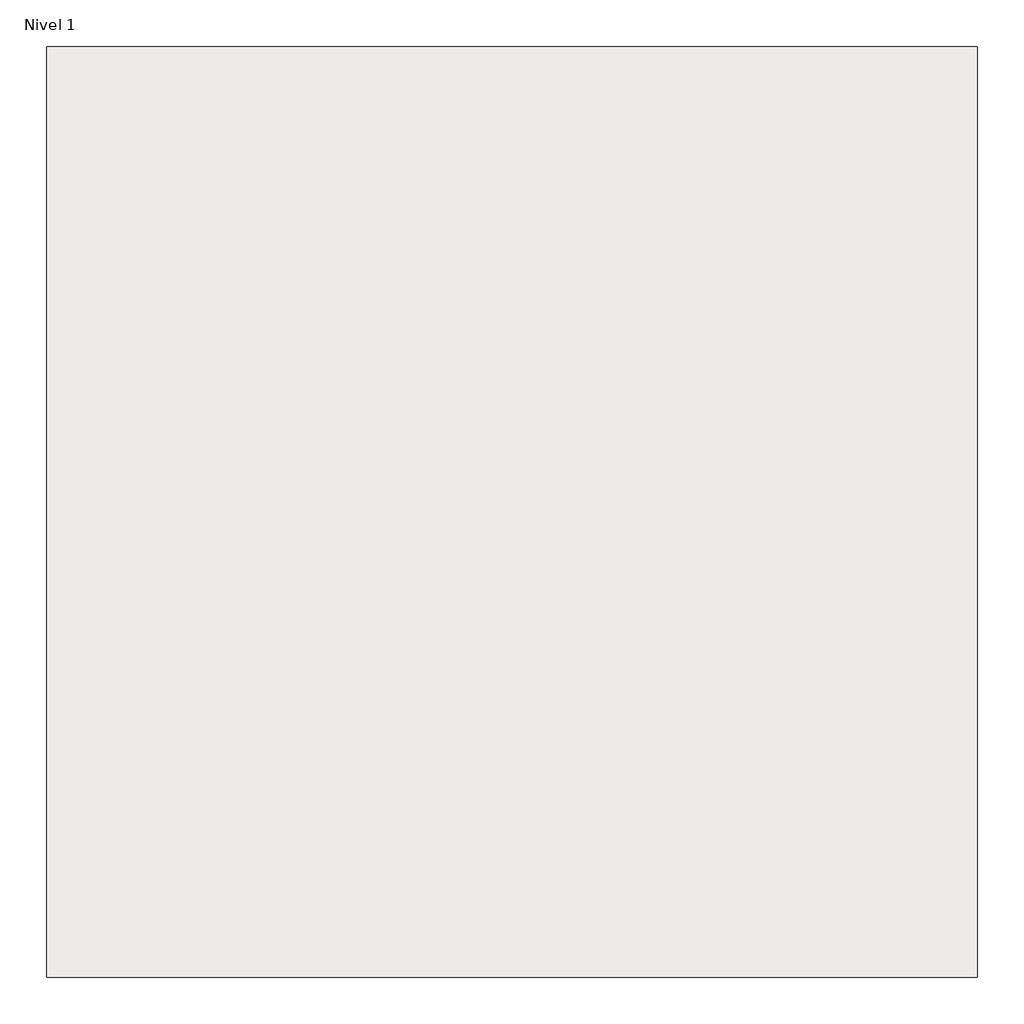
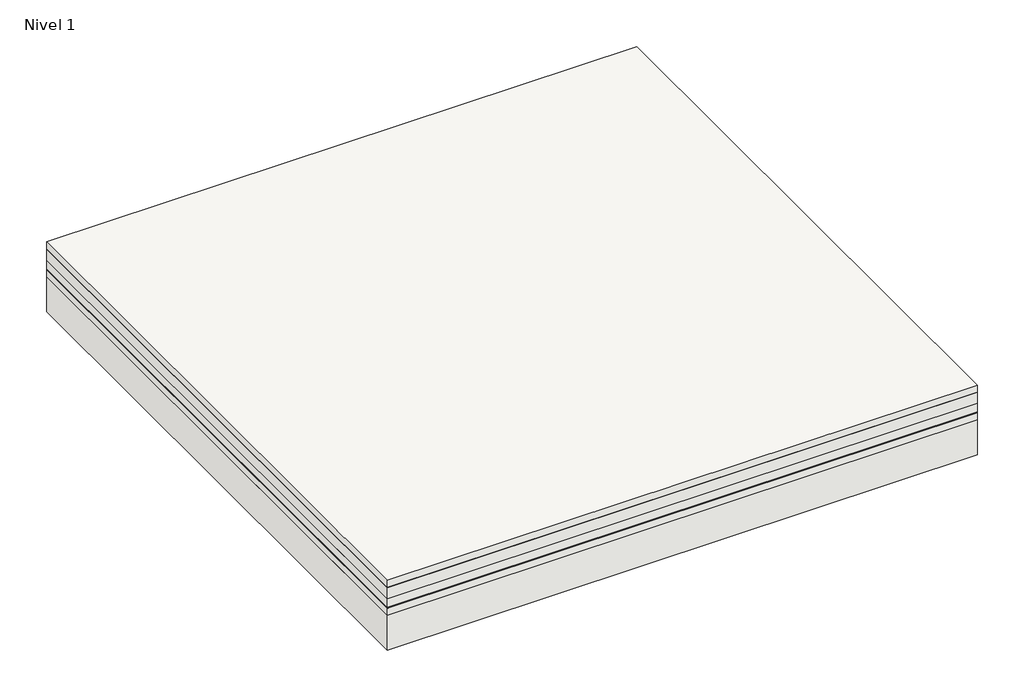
# One storey: 1 roof.
"""IFC4 building model written with IfcOpenShell, lengths in millimetres."""

from ifc_helpers import new_model, si_unit, frame, origin, origin_with_axes, place, context, project, spatial, polyline, outline, extrude, element, save

model = new_model("IFC4")

# Units and contexts
model_context = context("Model", 3, world=origin())
ifc_project = project(units=[si_unit("LENGTHUNIT", "METRE", prefix="MILLI")], contexts=[model_context])

# Site, building, storey
site = spatial("IfcSite", under=ifc_project)
building = spatial("IfcBuilding", under=site)
storey = spatial("IfcBuildingStorey", under=building, Name="Nivel 1", Elevation=0.0)

# Roof
placement = place(None, origin())
element("IfcRoof", 1, ObjectType="CubiertaSostenible-Ajardinada_Intensiva_BIAJ7_INT", at=placement, inside=storey, context=model_context, shape_type="SweptSolid", body=[
    extrude(outline(polyline([(-2544.9527165, -3086.8428917), (-6544.9527165, -3086.8428917), (-6544.9527165, 913.1571083), (-2544.9527165, 913.1571083), (-2544.9527165, -3086.8428917)])), frame((0.0, 0.0, 450.0), z_axis=(0.0, 0.0, 1.0), x_axis=(1.0, 0.0, 0.0)), (0.0, 0.0, 1.0), 50.0),
    extrude(outline(polyline([(-2544.9527165, -3086.8428917), (-6544.9527165, -3086.8428917), (-6544.9527165, 913.1571083), (-2544.9527165, 913.1571083), (-2544.9527165, -3086.8428917)])), frame((0.0, 0.0, 448.0), z_axis=(0.0, 0.0, 1.0), x_axis=(1.0, 0.0, 0.0)), (0.0, 0.0, 1.0), 2.0),
    extrude(outline(polyline([(-2544.9527165, -3086.8428917), (-6544.9527165, -3086.8428917), (-6544.9527165, 913.1571083), (-2544.9527165, 913.1571083), (-2544.9527165, -3086.8428917)])), frame((0.0, 0.0, 368.0), z_axis=(0.0, 0.0, 1.0), x_axis=(1.0, 0.0, 0.0)), (0.0, 0.0, 1.0), 80.0),
    extrude(outline(polyline([(-2544.9527165, -3086.8428917), (-6544.9527165, -3086.8428917), (-6544.9527165, 913.1571083), (-2544.9527165, 913.1571083), (-2544.9527165, -3086.8428917)])), frame((0.0, 0.0, 308.0), z_axis=(0.0, 0.0, 1.0), x_axis=(1.0, 0.0, 0.0)), (0.0, 0.0, 1.0), 60.0),
    extrude(outline(polyline([(-2544.9527165, -3086.8428917), (-6544.9527165, -3086.8428917), (-6544.9527165, 913.1571083), (-2544.9527165, 913.1571083), (-2544.9527165, -3086.8428917)])), frame((0.0, 0.0, 306.0), z_axis=(0.0, 0.0, 1.0), x_axis=(1.0, 0.0, 0.0)), (0.0, 0.0, 1.0), 2.0),
    extrude(outline(polyline([(-2544.9527165, -3086.8428917), (-6544.9527165, -3086.8428917), (-6544.9527165, 913.1571083), (-2544.9527165, 913.1571083), (-2544.9527165, -3086.8428917)])), frame((0.0, 0.0, 304.0), z_axis=(0.0, 0.0, 1.0), x_axis=(1.0, 0.0, 0.0)), (0.0, 0.0, 1.0), 2.0),
    extrude(outline(polyline([(-2544.9527165, -3086.8428917), (-6544.9527165, -3086.8428917), (-6544.9527165, 913.1571083), (-2544.9527165, 913.1571083), (-2544.9527165, -3086.8428917)])), frame((0.0, 0.0, 302.0), z_axis=(0.0, 0.0, 1.0), x_axis=(1.0, 0.0, 0.0)), (0.0, 0.0, 1.0), 2.0),
    extrude(outline(polyline([(-2544.9527165, -3086.8428917), (-6544.9527165, -3086.8428917), (-6544.9527165, 913.1571083), (-2544.9527165, 913.1571083), (-2544.9527165, -3086.8428917)])), frame((0.0, 0.0, 300.0), z_axis=(0.0, 0.0, 1.0), x_axis=(1.0, 0.0, 0.0)), (0.0, 0.0, 1.0), 2.0),
    extrude(outline(polyline([(-2544.9527165, -3086.8428917), (-6544.9527165, -3086.8428917), (-6544.9527165, 913.1571083), (-2544.9527165, 913.1571083), (-2544.9527165, -3086.8428917)])), frame((0.0, 0.0, 250.0), z_axis=(0.0, 0.0, 1.0), x_axis=(1.0, 0.0, 0.0)), (0.0, 0.0, 1.0), 50.0),
    extrude(outline(polyline([(-2544.9527165, -3086.8428917), (-6544.9527165, -3086.8428917), (-6544.9527165, 913.1571083), (-2544.9527165, 913.1571083), (-2544.9527165, -3086.8428917)])), origin_with_axes(), (0.0, 0.0, 1.0), 250.0),
])

save(model, "model.ifc")
